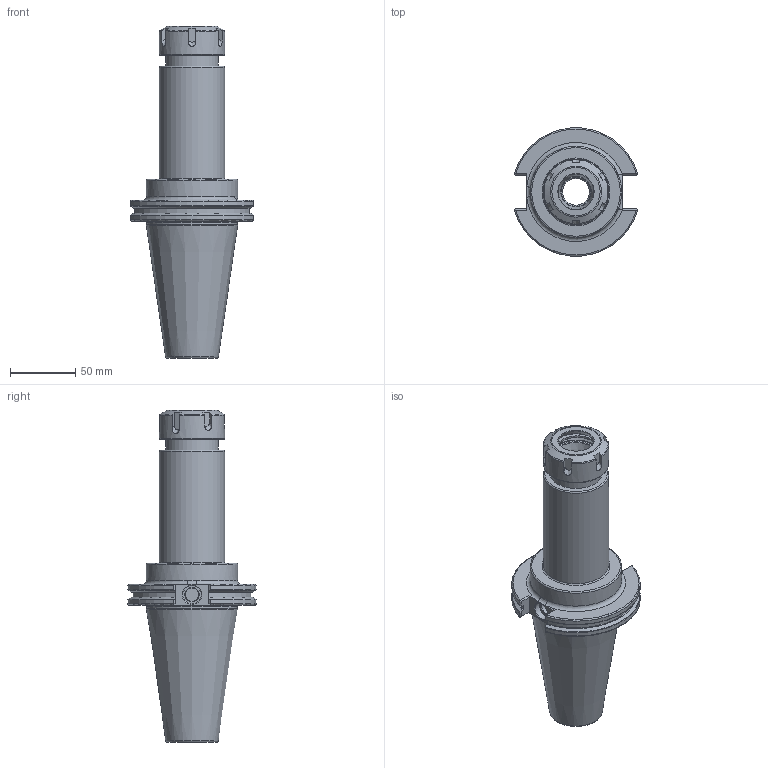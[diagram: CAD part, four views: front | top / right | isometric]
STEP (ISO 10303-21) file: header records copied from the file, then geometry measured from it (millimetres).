
FILE_DESCRIPTION(/* description */ (''),/* implementation_level */ '2;1');
FILE_NAME(/* name */ 'CAT50-ER32-6''''_asm1.prt.stp',/* time_stamp */ '2020-04-11T17:42:44+08:00',/* author */ (''),/* organization */ (''),/* preprocessor_version */ 'ST-DEVELOPER v16',/* originating_system */ 'SIEMENS PLM Software NX 10.0',/* authorisation */ '');
FILE_SCHEMA (('CONFIG_CONTROL_DESIGN'));
Length unit declared in the file: millimetre
Products named in the file (3): CAT50-ER32-6''; ER32UM压帽; CAT50-ER32-6''_asm1
Assembly tree (2 placements, depth 2):
  CAT50-ER32-6''_asm1
    ER32UM压帽
    CAT50-ER32-6''
Bounding box: 94.4 x 98.07 x 254 mm (x, y, z)
Volume: 539036.2 mm3; surface area: 80058.6 mm2
Topology: 2 solids, 2 shells, 151 faces, 402 edges, 266 vertices
Faces by surface type: plane 72, torus 27, cylinder 24, cone 20, bspline 8
Full cylindrical faces by diameter (mm): 10 x1, 14 x1, 20.5 x1, 22.225 x1, 23.5 x1, 26.19 x1, 27.17 x1, 32.7 x1, 36 x1, 38 x1, 38.376 x1, 40 x1, 40.5 x1, 50 x2, 69 x1, 69.85 x1
Entity records: 5378 total; most frequent: CARTESIAN_POINT 1567, ORIENTED_EDGE 734, DIRECTION 694, EDGE_CURVE 367, AXIS2_PLACEMENT_3D 276, VERTEX_POINT 260, EDGE_LOOP 195, ADVANCED_FACE 151
